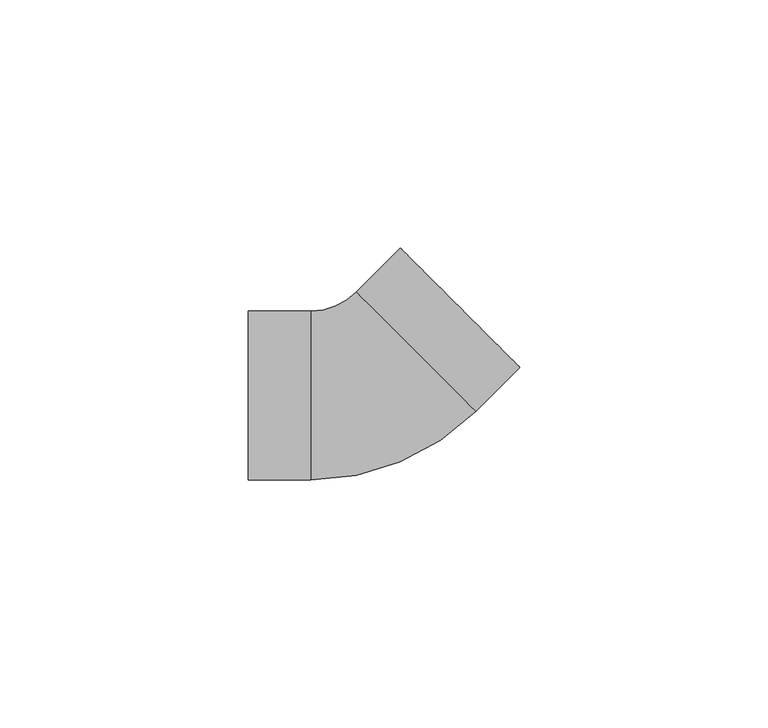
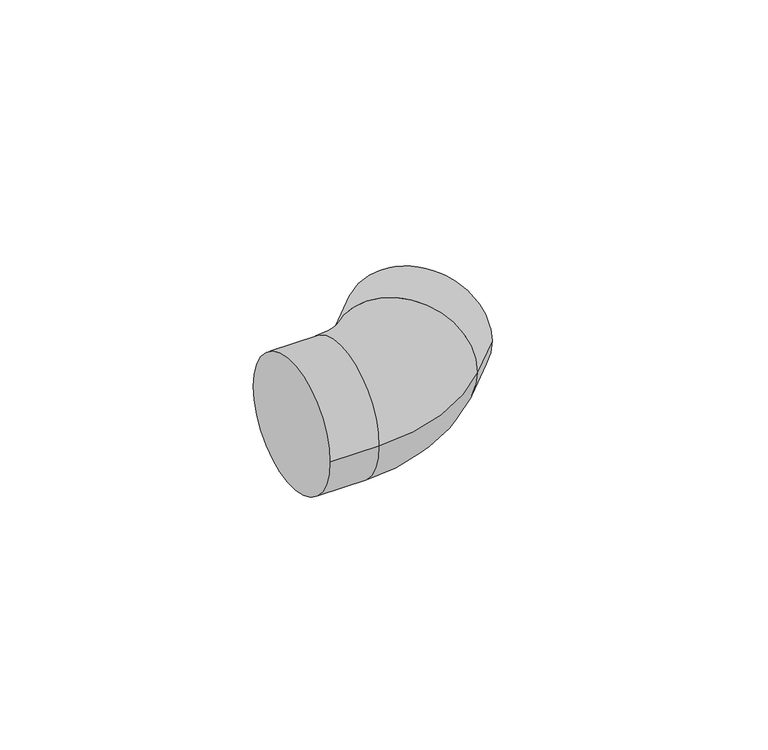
"""IFC4 building model written with IfcOpenShell, lengths in millimetres: pipe fitting geometry, PipeFitting_HTA_CPVC_Elbows : 25mm x 45°."""

from ifc_helpers import new_model, si_unit, point, frame, origin, place, context, project, spatial, circle_curve, ellipse_curve, trimmed, source, transform, mapped, element, save
from ifc_brep_helpers import plane_surface, cylinder_surface, revolved_surface, advanced_brep


def pipe_fitting_bb9055f2(model_context):
    return source(origin(), model_context, "Body", "AdvancedBrep", [
        advanced_brep(
        [(-25.0, -17.0, 0.0), (-25.0, 17.0, 0.0), (-12.4264069, -17.0, 0.0), (-12.4264069, 17.0, 0.0), (-3.2340187, 20.8076118, 0.0), (20.8076118, -3.2340187, 0.0), (29.6984848, 5.6568542, 0.0), (5.6568542, 29.6984848, 0.0)],
        [
            (0, 1, circle_curve(frame((-25.0, 0.0, 0.0), z_axis=(-1.0, 0.0, 0.0), x_axis=(0.0, 1.0, 0.0)), 17.0)),
            (1, 0, circle_curve(frame((-25.0, 0.0, 0.0), z_axis=(-1.0, 0.0, 0.0), x_axis=(0.0, 1.0, 0.0)), 17.0)),
            (0, 2),
            (2, 3, circle_curve(frame((-12.4264069, 0.0, 0.0), z_axis=(-1.0, 0.0, 0.0), x_axis=(0.0, 1.0, 0.0)), 17.0)),
            (3, 1),
            (3, 2, circle_curve(frame((-12.4264069, 0.0, 0.0), z_axis=(-1.0, 0.0, 0.0), x_axis=(0.0, 1.0, 0.0)), 17.0)),
            (4, 3, circle_curve(frame((-12.4264069, 30.0, 0.0), z_axis=(0.0, 0.0, -1.0), x_axis=(0.0, -1.0, 0.0)), 13.0)),
            (2, 5, circle_curve(frame((-12.4264069, 30.0, 0.0), z_axis=(0.0, 0.0, 1.0), x_axis=(0.0, -1.0, 0.0)), 47.0)),
            (5, 4, circle_curve(frame((8.7867966, 8.7867966, 0.0), z_axis=(-0.7071067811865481, -0.7071067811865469, 0.0), x_axis=(-0.7071067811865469, 0.7071067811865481, 0.0)), 17.0)),
            (4, 5, circle_curve(frame((8.7867966, 8.7867966, 0.0), z_axis=(-0.707106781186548, -0.707106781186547, 0.0), x_axis=(-0.707106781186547, 0.707106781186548, 0.0)), 17.0)),
            (6, 7, circle_curve(frame((17.6776695, 17.6776695, 0.0), z_axis=(0.7071067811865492, 0.7071067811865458, 0.0), x_axis=(-0.7071067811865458, 0.7071067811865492, 0.0)), 17.0)),
            (7, 6, circle_curve(frame((17.6776695, 17.6776695, 0.0), z_axis=(0.7071067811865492, 0.7071067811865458, 0.0), x_axis=(-0.7071067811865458, 0.7071067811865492, 0.0)), 17.0)),
            (5, 6),
            (7, 4),
        ],
        [
            plane_surface(frame((-25.0, 0.0, 0.0), z_axis=(-1.0, 0.0, 0.0), x_axis=(0.0, 0.0, 1.0))),
            cylinder_surface(frame((-25.0, 0.0, 0.0), z_axis=(-1.0, 0.0, 0.0), x_axis=(0.0, 1.0, 0.0)), 17.0),
            revolved_surface(trimmed(ellipse_curve(frame((-12.4264069, 0.0, 0.0), z_axis=(-1.0, 0.0, 0.0), x_axis=(0.0, 1.0, 0.0)), 17.0, 17.0), [point((-12.4264069, -17.0, 0.0))], [point((-12.4264069, 17.0, 0.0))], True, "CARTESIAN"), (-12.4264069, 30.0, 0.0), (0.0, 0.0, 1.0)),
            revolved_surface(trimmed(ellipse_curve(frame((-12.4264069, 0.0, 0.0), z_axis=(-1.0, 0.0, 0.0), x_axis=(0.0, 1.0, 0.0)), 17.0, 17.0), [point((-12.4264069, 17.0, 0.0))], [point((-12.4264069, -17.0, 0.0))], True, "CARTESIAN"), (-12.4264069, 30.0, 0.0), (0.0, 0.0, 1.0)),
            plane_surface(frame((17.6776695, 17.6776695, 0.0), z_axis=(0.7071067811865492, 0.7071067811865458, 0.0), x_axis=(0.0, 0.0, 1.0))),
            cylinder_surface(frame((8.7867966, 8.7867966, 0.0), z_axis=(-0.7071067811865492, -0.7071067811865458, 0.0), x_axis=(-0.7071067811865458, 0.7071067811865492, 0.0)), 17.0),
        ],
        [
            (0, [[1, 2]]),
            (1, [[-1, 3, 4, 5]]),
            (1, [[-2, -5, 6, -3]]),
            (2, [[7, -4, 8, 9]]),
            (3, [[-8, -6, -7, 10]]),
            (4, [[11, 12]]),
            (5, [[-9, 13, -12, 14]]),
            (5, [[-10, -14, -11, -13]]),
        ],
    ),
    ])


if __name__ == "__main__":
    model = new_model("IFC4")
    model_context = context("Model", 3, world=origin())
    ifc_project = project(units=[si_unit("LENGTHUNIT", "METRE", prefix="MILLI")], contexts=[model_context])
    site = spatial("IfcSite", under=ifc_project)
    building = spatial("IfcBuilding", under=site)
    placement = place(None, origin())
    pipe_fitting_shape = pipe_fitting_bb9055f2(model_context)
    element("IfcPipeFitting", 1, ObjectType="PipeFitting_HTA_CPVC_Elbows : 25mm x 45°", at=placement, inside=building, context=model_context, shape_type="MappedRepresentation", body=[
        mapped(pipe_fitting_shape, transform((0.0, 0.0, 0.0), x_axis=(1.0, 0.0, 0.0), y_axis=(0.0, 1.0, 0.0), z_axis=(0.0, 0.0, 1.0))),
    ])
    save(model, "model.ifc")
